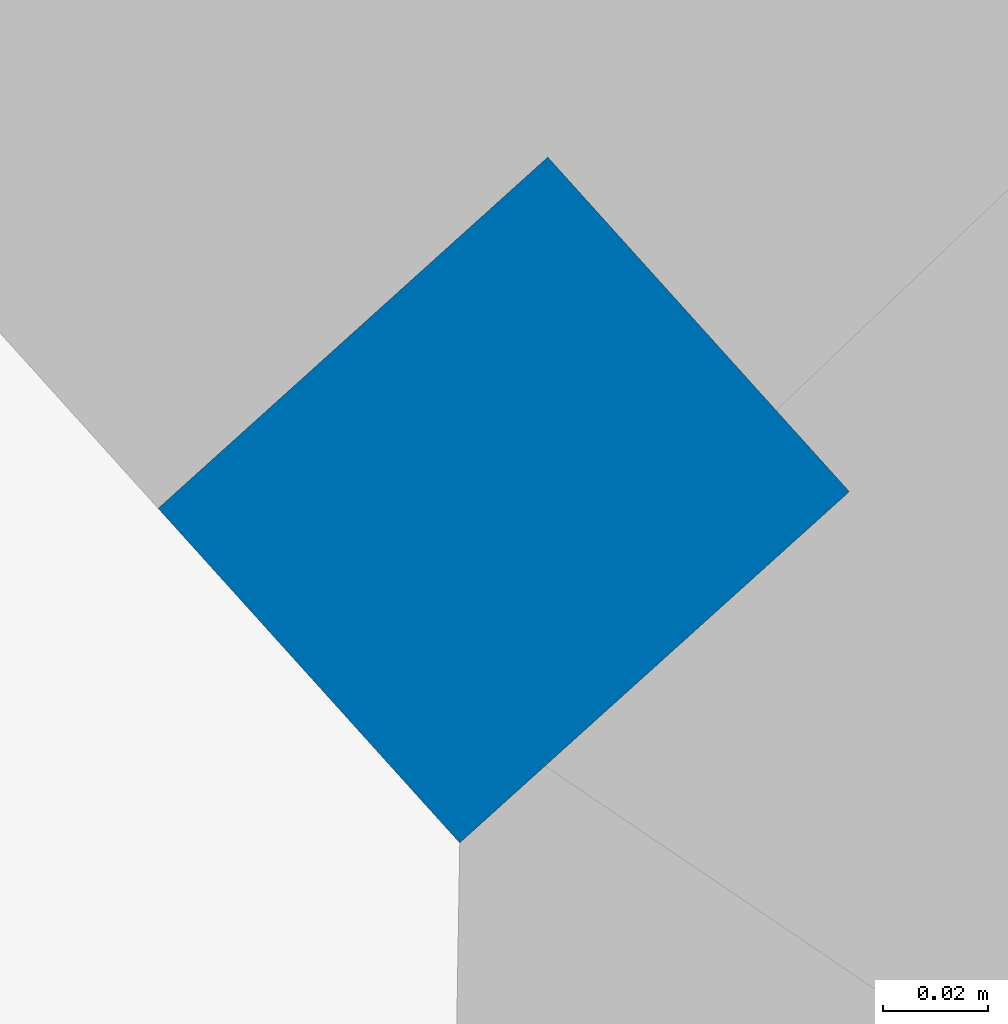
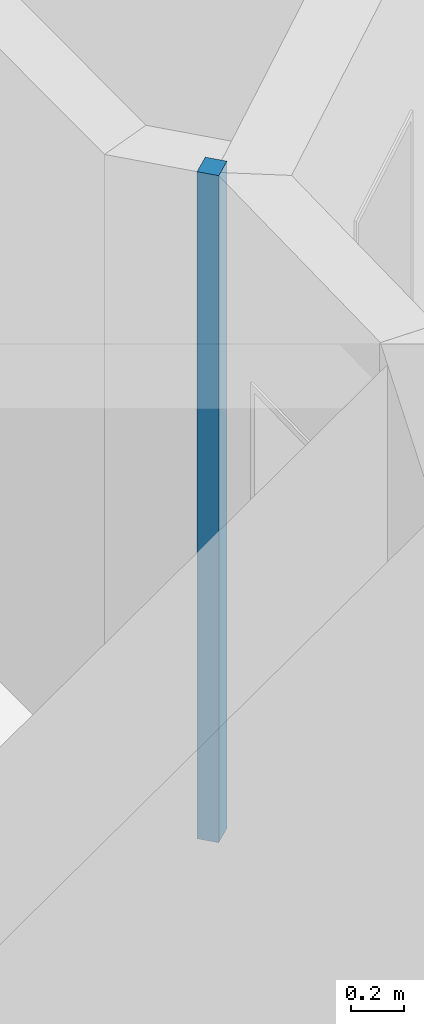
# One storey, part 4 of 196: 1 column.
"""IFC2X3 building model written with IfcOpenShell, lengths in metres."""

from ifc_helpers import new_model, entity, si_unit, converted_unit, derived_unit, money_unit, direction, frame, origin_with_axes, origin_2d_with_axis, place, context, subcontext, project, spatial, rectangle, extrude, material, type_object, element, save


model = new_model("IFC2X3")

# Units and contexts
model_context = context("Model", 3, precision=1e-05, world=origin_with_axes(), true_north=direction((0.0, 1.0)))
body_context = subcontext(model_context, "Body", "Model", "MODEL_VIEW")
ifc_project = project(units=[si_unit("LENGTHUNIT", "METRE"), si_unit("AREAUNIT", "SQUARE_METRE"), si_unit("VOLUMEUNIT", "CUBIC_METRE"), converted_unit("PLANEANGLEUNIT", "DEGREE", entity("IfcPlaneAngleMeasure", 0.0174532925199), si_unit("PLANEANGLEUNIT", "RADIAN"), dimensions=[0, 0, 0, 0, 0, 0, 0]), money_unit("EUR"), converted_unit("TIMEUNIT", "Year", entity("IfcTimeMeasure", 31556926.0), si_unit("TIMEUNIT", "SECOND"), dimensions=[0, 0, 1, 0, 0, 0, 0]), si_unit("MASSUNIT", "GRAM", prefix="KILO"), si_unit("THERMODYNAMICTEMPERATUREUNIT", "DEGREE_CELSIUS"), si_unit("LUMINOUSINTENSITYUNIT", "LUMEN"), si_unit("ENERGYUNIT", "JOULE", prefix="MEGA"), derived_unit("THERMALCONDUCTANCEUNIT", [(si_unit("POWERUNIT", "WATT"), 1), (si_unit("LENGTHUNIT", "METRE"), -1), (si_unit("THERMODYNAMICTEMPERATUREUNIT", "KELVIN"), -1)]), derived_unit("SPECIFICHEATCAPACITYUNIT", [(si_unit("ENERGYUNIT", "JOULE"), 1), (si_unit("MASSUNIT", "GRAM", prefix="KILO"), -1), (si_unit("THERMODYNAMICTEMPERATUREUNIT", "KELVIN"), -1)]), derived_unit("MASSDENSITYUNIT", [(si_unit("MASSUNIT", "GRAM", prefix="KILO"), 1), (si_unit("VOLUMEUNIT", "CUBIC_METRE"), -1)])], contexts=[model_context])

# Site, building, storey
site_placement = place(None, origin_with_axes())
site = spatial("IfcSite", under=ifc_project, at=site_placement, Name="Gelände", CompositionType="ELEMENT")
building_placement = place(site_placement, origin_with_axes())
building = spatial("IfcBuilding", under=site, at=building_placement, Name="Gebäude", CompositionType="ELEMENT")
storey_placement = place(building_placement, frame((0.0, 0.0, -3.0), z_axis=(0.0, 0.0, 1.0), x_axis=(1.0, 0.0, 0.0)))
storey = spatial("IfcBuildingStorey", under=building, at=storey_placement, Name="KELLERGESCHOSS", CompositionType="ELEMENT", Elevation=-3.0)

# Column
ifc_material = material(Name="43_Gipskarton")
column_type = type_object("IfcColumnType", Name="43_Gipskarton 86 x 100", PredefinedType="USERDEFINED")
column_placement = place(storey_placement, frame((-6.24359735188, 40.7978477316, 0.44), z_axis=(0.0, 0.0, 1.0), x_axis=(0.831455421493, -0.55559147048, 0.0)))
element("IfcColumn", 1, at=column_placement, inside=storey, type_object=column_type, material=ifc_material, Name="Stütze-008", ObjectType="PILASTER", context=body_context, shape_type="SweptSolid", body=[
    extrude(rectangle(XDim=0.0858697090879, YDim=0.1, at=origin_2d_with_axis()), frame((0.0, 0.0, 0.0), z_axis=(0.0, 0.0, 1.0), x_axis=(0.969394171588, -0.245509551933, 0.0)), (0.0, 0.0, 1.0), 3.06),
])

save(model, "model.ifc")
